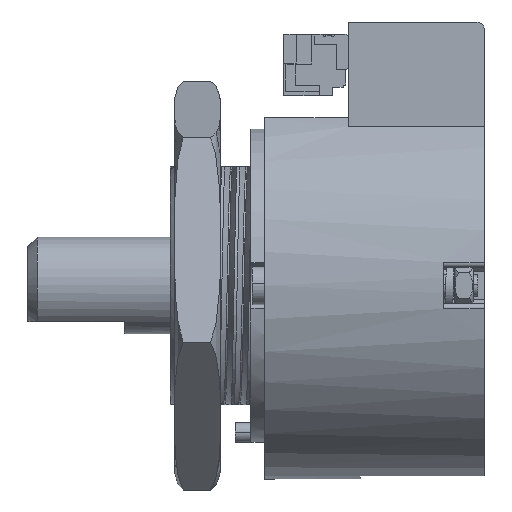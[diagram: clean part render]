
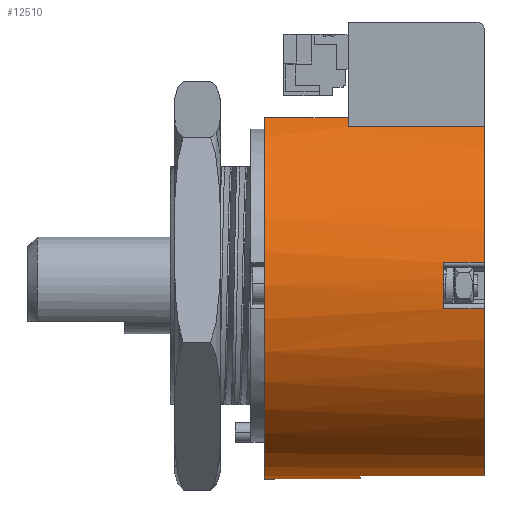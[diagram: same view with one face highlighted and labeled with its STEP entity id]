
A CAD part, left-side view. The second image highlights one B-rep face of the part: STEP entity #12510.
In plain terms, the highlighted cylindrical face has radius 12.7 mm (diameter 25.4 mm), a partial arc.
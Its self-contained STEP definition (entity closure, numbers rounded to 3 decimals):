
#3910=CARTESIAN_POINT('',(10.427,-11.98,7.25));
#3920=VERTEX_POINT('',#3910);
#4590=CARTESIAN_POINT('',(10.427,-11.98,-7.25));
#4600=VERTEX_POINT('',#4590);
#4630=CARTESIAN_POINT('',(0.,-11.98,
0.));
#4640=DIRECTION('',(0.,-1.,0.));
#4650=DIRECTION('',(0.787,0.,
-0.617));
#4660=AXIS2_PLACEMENT_3D('',#4630,#4640,#4650);
#4670=CIRCLE('',#4660,12.7);
#4680=CARTESIAN_POINT('',(9.998,-11.98,-7.832));
#4690=VERTEX_POINT('',#4680);
#4700=EDGE_CURVE('',#4690,#4600,#4670,.T.);
#5260=CARTESIAN_POINT('',(7.832,-11.98,-9.998));
#5270=VERTEX_POINT('',#5260);
#5300=CARTESIAN_POINT('',(0.,-11.98,
0.));
#5310=DIRECTION('',(0.,-1.,0.));
#5320=DIRECTION('',(-0.617,0.,
-0.787));
#5330=AXIS2_PLACEMENT_3D('',#5300,#5310,#5320);
#5340=CIRCLE('',#5330,12.7);
#5350=CARTESIAN_POINT('',(-7.832,-11.98,-9.998));
#5360=VERTEX_POINT('',#5350);
#5370=EDGE_CURVE('',#5360,#5270,#5340,.T.);
#5930=CARTESIAN_POINT('',(-9.998,-11.98,-7.832));
#5940=VERTEX_POINT('',#5930);
#5970=CARTESIAN_POINT('',(0.,-11.98,
0.));
#5980=DIRECTION('',(0.,-1.,0.));
#5990=DIRECTION('',(-0.984,0.,
-0.177));
#6000=AXIS2_PLACEMENT_3D('',#5970,#5980,#5990);
#6010=CIRCLE('',#6000,12.7);
#6020=CARTESIAN_POINT('',(-12.5,-11.98,-2.245));
#6030=VERTEX_POINT('',#6020);
#6040=EDGE_CURVE('',#6030,#5940,#6010,.T.);
#6100=CARTESIAN_POINT('',(-12.5,-11.98,2.245));
#6110=VERTEX_POINT('',#6100);
#6140=CARTESIAN_POINT('',(0.,-11.98,
0.));
#6150=DIRECTION('',(0.,-1.,0.));
#6160=DIRECTION('',(-0.121,0.,
0.993));
#6170=AXIS2_PLACEMENT_3D('',#6140,#6150,#6160);
#6180=CIRCLE('',#6170,12.7);
#6190=CARTESIAN_POINT('',(-1.532,-11.98,12.607));
#6200=VERTEX_POINT('',#6190);
#6210=EDGE_CURVE('',#6200,#6110,#6180,.T.);
#6770=CARTESIAN_POINT('',(1.532,-11.98,12.607));
#6780=VERTEX_POINT('',#6770);
#6810=CARTESIAN_POINT('',(0.,-11.98,
0.));
#6820=DIRECTION('',(0.,-1.,0.));
#6830=DIRECTION('',(0.821,0.,
0.571));
#6840=AXIS2_PLACEMENT_3D('',#6810,#6820,#6830);
#6850=CIRCLE('',#6840,12.7);
#6860=EDGE_CURVE('',#3920,#6780,#6850,.T.);
#10950=CARTESIAN_POINT('',(0.,1.9,
0.));
#10960=DIRECTION('',(0.,-1.,0.));
#10970=DIRECTION('',(0.,0.,1.));
#10980=AXIS2_PLACEMENT_3D('',#10950,#10960,#10970);
#10990=CYLINDRICAL_SURFACE('',#10980,12.7);
#11000=CARTESIAN_POINT('',(11.,-3.05,6.347));
#11010=DIRECTION('',(0.,1.,0.));
#11020=VECTOR('',#11010,1.);
#11030=LINE('',#11000,#11020);
#11040=CARTESIAN_POINT('',(11.,-3.05,6.347));
#11050=VERTEX_POINT('',#11040);
#11060=CARTESIAN_POINT('',(11.,2.45,6.347));
#11070=VERTEX_POINT('',#11060);
#11080=EDGE_CURVE('',#11050,#11070,#11030,.T.);
#11090=ORIENTED_EDGE('',*,*,#11080,.T.);
#11100=CARTESIAN_POINT('',(0.,-3.05,
0.));
#11110=DIRECTION('',(0.,-1.,0.));
#11120=DIRECTION('',(0.,0.,1.));
#11130=AXIS2_PLACEMENT_3D('',#11100,#11110,#11120);
#11140=CIRCLE('',#11130,12.7);
#11150=CARTESIAN_POINT('',(10.427,-3.05,7.25));
#11160=VERTEX_POINT('',#11150);
#11170=EDGE_CURVE('',#11050,#11160,#11140,.T.);
#11180=ORIENTED_EDGE('',*,*,#11170,.F.);
#11190=CARTESIAN_POINT('',(10.427,-11.98,7.25));
#11200=DIRECTION('',(0.,1.,0.));
#11210=VECTOR('',#11200,1.);
#11220=LINE('',#11190,#11210);
#11230=EDGE_CURVE('',#3920,#11160,#11220,.T.);
#11240=ORIENTED_EDGE('',*,*,#11230,.T.);
#11250=ORIENTED_EDGE('',*,*,#6860,.F.);
#11260=CARTESIAN_POINT('',(1.532,-11.98,12.607));
#11270=DIRECTION('',(0.,1.,0.));
#11280=VECTOR('',#11270,1.);
#11290=LINE('',#11260,#11280);
#11300=CARTESIAN_POINT('',(1.532,-9.29,12.607));
#11310=VERTEX_POINT('',#11300);
#11320=EDGE_CURVE('',#6780,#11310,#11290,.T.);
#11330=ORIENTED_EDGE('',*,*,#11320,.F.);
#11340=CARTESIAN_POINT('',(0.,-9.29,
0.));
#11350=DIRECTION('',(0.,-1.,0.));
#11360=DIRECTION('',(0.121,0.,
0.993));
#11370=AXIS2_PLACEMENT_3D('',#11340,#11350,#11360);
#11380=CIRCLE('',#11370,12.7);
#11390=CARTESIAN_POINT('',(-1.532,-9.29,
12.607));
#11400=VERTEX_POINT('',#11390);
#11410=EDGE_CURVE('',#11310,#11400,#11380,.T.);
#11420=ORIENTED_EDGE('',*,*,#11410,.F.);
#11430=CARTESIAN_POINT('',(-1.532,-9.29,
12.607));
#11440=DIRECTION('',(0.,-1.,0.));
#11450=VECTOR('',#11440,1.);
#11460=LINE('',#11430,#11450);
#11470=EDGE_CURVE('',#11400,#6200,#11460,.T.);
#11480=ORIENTED_EDGE('',*,*,#11470,.F.);
#11490=ORIENTED_EDGE('',*,*,#6210,.F.);
#11500=CARTESIAN_POINT('',(-12.5,-3.85,
2.245));
#11510=DIRECTION('',(0.,-1.,0.));
#11520=VECTOR('',#11510,1.);
#11530=LINE('',#11500,#11520);
#11540=CARTESIAN_POINT('',(-12.5,-3.849,
2.245));
#11550=VERTEX_POINT('',#11540);
#11560=EDGE_CURVE('',#11550,#6110,#11530,.T.);
#11570=ORIENTED_EDGE('',*,*,#11560,.T.);
#11580=CARTESIAN_POINT('',(0.,-3.85,
0.));
#11590=DIRECTION('',(0.,-1.,0.));
#11600=DIRECTION('',(-1.,0.,0.));
#11610=AXIS2_PLACEMENT_3D('',#11580,#11590,#11600);
#11620=CIRCLE('',#11610,12.7);
#11630=CARTESIAN_POINT('',(-12.5,-3.849,
-2.245));
#11640=VERTEX_POINT('',#11630);
#11650=EDGE_CURVE('',#11550,#11640,#11620,.T.);
#11660=ORIENTED_EDGE('',*,*,#11650,.F.);
#11670=CARTESIAN_POINT('',(-12.5,-11.98,-2.245));
#11680=DIRECTION('',(0.,1.,0.));
#11690=VECTOR('',#11680,1.);
#11700=LINE('',#11670,#11690);
#11710=EDGE_CURVE('',#6030,#11640,#11700,.T.);
#11720=ORIENTED_EDGE('',*,*,#11710,.T.);
#11730=ORIENTED_EDGE('',*,*,#6040,.F.);
#11740=CARTESIAN_POINT('',(-9.998,-11.98,-7.832));
#11750=DIRECTION('',(0.,1.,0.));
#11760=VECTOR('',#11750,1.);
#11770=LINE('',#11740,#11760);
#11780=CARTESIAN_POINT('',(-9.998,-9.29,
-7.832));
#11790=VERTEX_POINT('',#11780);
#11800=EDGE_CURVE('',#5940,#11790,#11770,.T.);
#11810=ORIENTED_EDGE('',*,*,#11800,.F.);
#11820=CARTESIAN_POINT('',(0.,-9.29,
0.));
#11830=DIRECTION('',(0.,-1.,0.));
#11840=DIRECTION('',(-0.787,0.,
-0.617));
#11850=AXIS2_PLACEMENT_3D('',#11820,#11830,#11840);
#11860=CIRCLE('',#11850,12.7);
#11870=CARTESIAN_POINT('',(-7.832,-9.29,
-9.998));
#11880=VERTEX_POINT('',#11870);
#11890=EDGE_CURVE('',#11790,#11880,#11860,.T.);
#11900=ORIENTED_EDGE('',*,*,#11890,.F.);
#11910=CARTESIAN_POINT('',(-7.832,-9.29,
-9.998));
#11920=DIRECTION('',(0.,-1.,0.));
#11930=VECTOR('',#11920,1.);
#11940=LINE('',#11910,#11930);
#11950=EDGE_CURVE('',#11880,#5360,#11940,.T.);
#11960=ORIENTED_EDGE('',*,*,#11950,.F.);
#11970=ORIENTED_EDGE('',*,*,#5370,.F.);
#11980=CARTESIAN_POINT('',(7.832,-11.98,-9.998));
#11990=DIRECTION('',(0.,1.,0.));
#12000=VECTOR('',#11990,1.);
#12010=LINE('',#11980,#12000);
#12020=CARTESIAN_POINT('',(7.832,-9.29,
-9.998));
#12030=VERTEX_POINT('',#12020);
#12040=EDGE_CURVE('',#5270,#12030,#12010,.T.);
#12050=ORIENTED_EDGE('',*,*,#12040,.F.);
#12060=CARTESIAN_POINT('',(0.,-9.29,
0.));
#12070=DIRECTION('',(0.,-1.,0.));
#12080=DIRECTION('',(0.617,0.,
-0.787));
#12090=AXIS2_PLACEMENT_3D('',#12060,#12070,#12080);
#12100=CIRCLE('',#12090,12.7);
#12110=CARTESIAN_POINT('',(9.998,-9.29,
-7.832));
#12120=VERTEX_POINT('',#12110);
#12130=EDGE_CURVE('',#12030,#12120,#12100,.T.);
#12140=ORIENTED_EDGE('',*,*,#12130,.F.);
#12150=CARTESIAN_POINT('',(9.998,-9.29,
-7.832));
#12160=DIRECTION('',(0.,-1.,0.));
#12170=VECTOR('',#12160,1.);
#12180=LINE('',#12150,#12170);
#12190=EDGE_CURVE('',#12120,#4690,#12180,.T.);
#12200=ORIENTED_EDGE('',*,*,#12190,.F.);
#12210=ORIENTED_EDGE('',*,*,#4700,.F.);
#12220=CARTESIAN_POINT('',(10.427,-3.85,
-7.25));
#12230=DIRECTION('',(0.,-1.,0.));
#12240=VECTOR('',#12230,1.);
#12250=LINE('',#12220,#12240);
#12260=CARTESIAN_POINT('',(10.427,-3.05,
-7.25));
#12270=VERTEX_POINT('',#12260);
#12280=EDGE_CURVE('',#12270,#4600,#12250,.T.);
#12290=ORIENTED_EDGE('',*,*,#12280,.T.);
#12300=CARTESIAN_POINT('',(11.,-3.05,-6.347));
#12310=VERTEX_POINT('',#12300);
#12320=EDGE_CURVE('',#12270,#12310,#11140,.T.);
#12330=ORIENTED_EDGE('',*,*,#12320,.F.);
#12340=CARTESIAN_POINT('',(11.,2.45,-6.347));
#12350=DIRECTION('',(0.,-1.,0.));
#12360=VECTOR('',#12350,1.);
#12370=LINE('',#12340,#12360);
#12380=CARTESIAN_POINT('',(11.,2.45,-6.347));
#12390=VERTEX_POINT('',#12380);
#12400=EDGE_CURVE('',#12390,#12310,#12370,.T.);
#12410=ORIENTED_EDGE('',*,*,#12400,.T.);
#12420=CARTESIAN_POINT('',(0.,2.45,
0.));
#12430=DIRECTION('',(0.,1.,0.));
#12440=DIRECTION('',(0.,0.,1.));
#12450=AXIS2_PLACEMENT_3D('',#12420,#12430,#12440);
#12460=CIRCLE('',#12450,12.7);
#12470=EDGE_CURVE('',#12390,#11070,#12460,.T.);
#12480=ORIENTED_EDGE('',*,*,#12470,.F.);
#12490=EDGE_LOOP('',(#12480,#12410,#12330,#12290,#12210,#12200,#12140,
#12050,#11970,#11960,#11900,#11810,#11730,#11720,#11660,#11570,#11490,
#11480,#11420,#11330,#11250,#11240,#11180,#11090));
#12500=FACE_OUTER_BOUND('',#12490,.T.);
#12510=ADVANCED_FACE('',(#12500),#10990,.T.);
